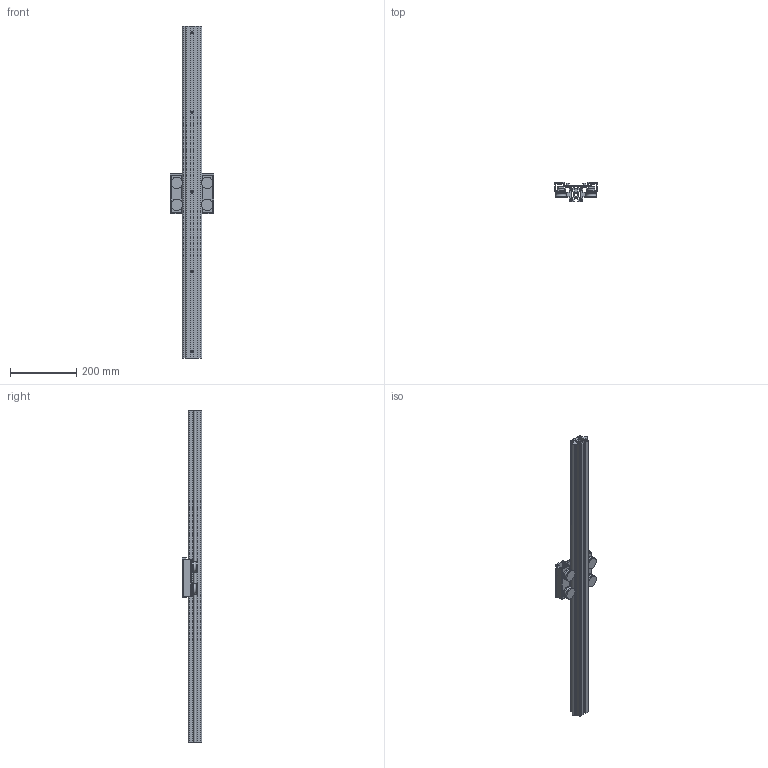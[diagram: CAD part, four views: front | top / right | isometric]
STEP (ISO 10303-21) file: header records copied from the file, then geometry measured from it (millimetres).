
FILE_DESCRIPTION (( 'STEP AP214' ), '1' );
FILE_NAME ('LSR4040A.STEP', '2020-06-23T05:07:25', ( '' ), ( '' ), 'SwSTEP 2.0', 'SolidWorks 2019', '' );
FILE_SCHEMA (( 'AUTOMOTIVE_DESIGN' ));
Length unit declared in the file: millimetre
Products named in the file (5): LS40A用ラック; LS4040Aキャリッジ; LSR4040A; LSR40用レール; LSR4040Aレール
Assembly tree (4 placements, depth 3):
  LSR4040A
    LSR4040Aレール
      LSR40用レール
      LS40A用ラック
    LS4040Aキャリッジ
Bounding box: 130 x 58 x 1000 mm (x, y, z)
Volume: 1293402.7 mm3; surface area: 621031 mm2
Topology: 7 solids, 7 shells, 441 faces, 1111 edges, 719 vertices
Faces by surface type: plane 275, cylinder 102, cone 60, torus 4
Full cylindrical faces by diameter (mm): 4.917 x4, 7 x5, 8.8 x4, 10.106 x4, 10.5 x1, 11 x4, 12 x8, 18 x4, 21 x4, 35 x8
Entity records: 12878 total; most frequent: CARTESIAN_POINT 2383, DIRECTION 2106, ORIENTED_EDGE 2072, EDGE_CURVE 1036, AXIS2_PLACEMENT_3D 717, VERTEX_POINT 706, VECTOR 672, LINE 672
